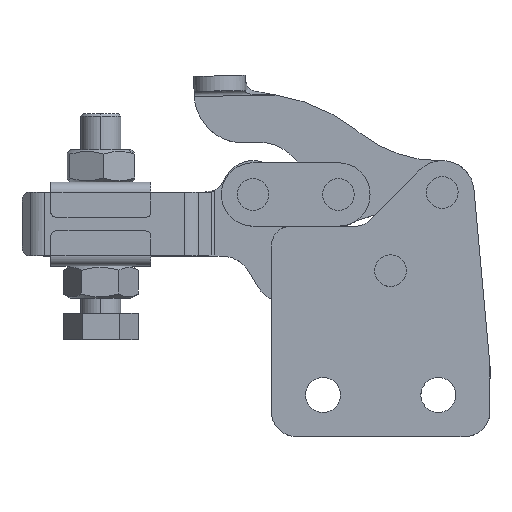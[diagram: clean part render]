
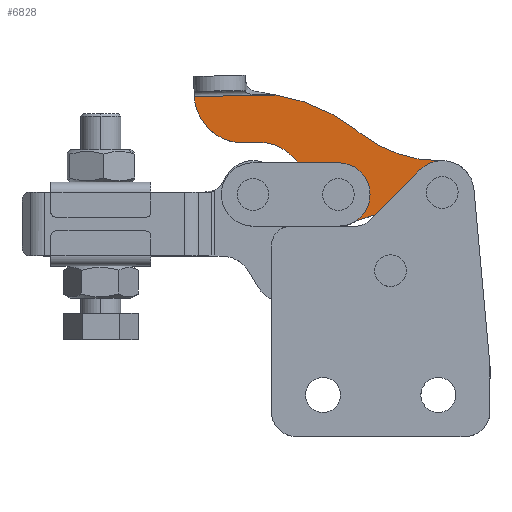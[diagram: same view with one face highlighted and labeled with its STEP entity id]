
A CAD part, top view. The second image highlights one B-rep face of the part: STEP entity #6828.
In plain terms, the highlighted planar face has unit normal (0, 0, 1).
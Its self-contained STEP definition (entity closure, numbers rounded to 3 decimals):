
#800 = EDGE_CURVE ( 'NONE', #4861, #4826, #1166, .T. ) ;
#805 = EDGE_CURVE ( 'NONE', #4835, #3981, #1239, .T. ) ;
#820 = EDGE_CURVE ( 'NONE', #3981, #4835, #1110, .T. ) ;
#824 = EDGE_CURVE ( 'NONE', #3980, #4831, #1260, .T. ) ;
#825 = EDGE_CURVE ( 'NONE', #4811, #4861, #2743, .T. ) ;
#830 = EDGE_CURVE ( 'NONE', #4826, #3999, #1264, .T. ) ;
#831 = EDGE_CURVE ( 'NONE', #3999, #4877, #1403, .T. ) ;
#834 = EDGE_CURVE ( 'NONE', #4877, #4873, #1101, .T. ) ;
#838 = EDGE_CURVE ( 'NONE', #4828, #1501, #1416, .T. ) ;
#839 = EDGE_CURVE ( 'NONE', #1501, #3984, #1414, .T. ) ;
#842 = EDGE_CURVE ( 'NONE', #3984, #1518, #5752, .T. ) ;
#849 = EDGE_CURVE ( 'NONE', #1518, #4878, #1406, .T. ) ;
#850 = EDGE_CURVE ( 'NONE', #4878, #4875, #5763, .T. ) ;
#851 = EDGE_CURVE ( 'NONE', #4875, #4811, #1285, .T. ) ;
#1083 = AXIS2_PLACEMENT_3D ( 'NONE', #5739, #5740, #5741 ) ;
#1095 = AXIS2_PLACEMENT_3D ( 'NONE', #2688, #2689, #2690 ) ;
#1101 = CIRCLE ( 'NONE', #1234, 17.881 ) ;
#1102 = AXIS2_PLACEMENT_3D ( 'NONE', #5777, #5778, #5779 ) ;
#1110 = CIRCLE ( 'NONE', #1213, 2.45 ) ;
#1131 = VECTOR ( 'NONE', #2747, 1000. ) ;
#1142 = AXIS2_PLACEMENT_3D ( 'NONE', #2671, #2672, #2673 ) ;
#1158 = AXIS2_PLACEMENT_3D ( 'NONE', #5783, #5784, #5785 ) ;
#1166 = CIRCLE ( 'NONE', #1142, 9.549 ) ;
#1171 = AXIS2_PLACEMENT_3D ( 'NONE', #5719, #5720, #5721 ) ;
#1213 = AXIS2_PLACEMENT_3D ( 'NONE', #2730, #2731, #2732 ) ;
#1223 = AXIS2_PLACEMENT_3D ( 'NONE', #5743, #5744, #5745 ) ;
#1234 = AXIS2_PLACEMENT_3D ( 'NONE', #5728, #5729, #5730 ) ;
#1239 = CIRCLE ( 'NONE', #1095, 2.45 ) ;
#1250 = AXIS2_PLACEMENT_3D ( 'NONE', #5716, #5717, #5718 ) ;
#1260 = CIRCLE ( 'NONE', #1413, 2.45 ) ;
#1262 = VECTOR ( 'NONE', #5754, 1000. ) ;
#1264 = CIRCLE ( 'NONE', #1250, 9.549 ) ;
#1285 = CIRCLE ( 'NONE', #1158, 9.877 ) ;
#1299 = VECTOR ( 'NONE', #5780, 1000. ) ;
#1403 = CIRCLE ( 'NONE', #1171, 6.411 ) ;
#1406 = CIRCLE ( 'NONE', #1102, 35.013 ) ;
#1413 = AXIS2_PLACEMENT_3D ( 'NONE', #2744, #2745, #2746 ) ;
#1414 = CIRCLE ( 'NONE', #1223, 25.464 ) ;
#1416 = CIRCLE ( 'NONE', #1083, 6.366 ) ;
#1501 = VERTEX_POINT ( 'NONE', #3386 ) ;
#1518 = VERTEX_POINT ( 'NONE', #3403 ) ;
#2325 = EDGE_CURVE ( 'NONE', #4873, #4828, #4038, .T. ) ;
#2671 = CARTESIAN_POINT ( 'NONE',  ( -36.719, 1.194, 0. ) ) ;
#2672 = DIRECTION ( 'NONE',  ( 0., 0., -1. ) ) ;
#2673 = DIRECTION ( 'NONE',  ( 1., 0., 0. ) ) ;
#2688 = CARTESIAN_POINT ( 'NONE',  ( -20.804, 0., 0. ) ) ;
#2689 = DIRECTION ( 'NONE',  ( 0., 0., 1. ) ) ;
#2690 = DIRECTION ( 'NONE',  ( 1., 0., 0. ) ) ;
#2730 = CARTESIAN_POINT ( 'NONE',  ( -20.804, 0., 0. ) ) ;
#2731 = DIRECTION ( 'NONE',  ( 0., 0., 1. ) ) ;
#2732 = DIRECTION ( 'NONE',  ( 1., 0., 0. ) ) ;
#2738 = CARTESIAN_POINT ( 'NONE',  ( -40.612, 10.743, 0. ) ) ;
#2743 = LINE ( 'NONE', #2738, #1131 ) ;
#2744 = CARTESIAN_POINT ( 'NONE',  ( 0., 0., 0. ) ) ;
#2745 = DIRECTION ( 'NONE',  ( 0., 0., 1. ) ) ;
#2746 = DIRECTION ( 'NONE',  ( 1., 0., 0. ) ) ;
#2747 = DIRECTION ( 'NONE',  ( 1., 0., 0. ) ) ;
#2781 = EDGE_LOOP ( 'NONE', ( #7722, #8103 ) ) ;
#2789 = EDGE_LOOP ( 'NONE', ( #8091, #8057, #8097, #8102, #7740, #7755, #7717, #7758, #8105, #7751, #7739, #8045 ) ) ;
#2792 = EDGE_LOOP ( 'NONE', ( #8111, #7748 ) ) ;
#3386 = CARTESIAN_POINT ( 'NONE',  ( 0., 6.366, 0. ) ) ;
#3403 = CARTESIAN_POINT ( 'NONE',  ( -17.1, 12.91, 0. ) ) ;
#3441 = CARTESIAN_POINT ( 'NONE',  ( 0., 0., 0. ) ) ;
#3442 = DIRECTION ( 'NONE',  ( 0., 0., 1. ) ) ;
#3443 = DIRECTION ( 'NONE',  ( 1., 0., 0. ) ) ;
#3612 = EDGE_CURVE ( 'NONE', #4831, #3980, #3901, .T. ) ;
#3681 = AXIS2_PLACEMENT_3D ( 'NONE', #5685, #5691, #5692 ) ;
#3901 = CIRCLE ( 'NONE', #4026, 2.45 ) ;
#3906 = AXIS2_PLACEMENT_3D ( 'NONE', #3441, #3442, #3443 ) ;
#3980 = VERTEX_POINT ( 'NONE', #6526 ) ;
#3981 = VERTEX_POINT ( 'NONE', #6527 ) ;
#3984 = VERTEX_POINT ( 'NONE', #6529 ) ;
#3999 = VERTEX_POINT ( 'NONE', #6543 ) ;
#4026 = AXIS2_PLACEMENT_3D ( 'NONE', #6485, #6486, #6487 ) ;
#4038 = CIRCLE ( 'NONE', #3906, 6.366 ) ;
#4811 = VERTEX_POINT ( 'NONE', #6588 ) ;
#4826 = VERTEX_POINT ( 'NONE', #6596 ) ;
#4828 = VERTEX_POINT ( 'NONE', #6597 ) ;
#4831 = VERTEX_POINT ( 'NONE', #6599 ) ;
#4835 = VERTEX_POINT ( 'NONE', #6601 ) ;
#4861 = VERTEX_POINT ( 'NONE', #6615 ) ;
#4873 = VERTEX_POINT ( 'NONE', #5424 ) ;
#4875 = VERTEX_POINT ( 'NONE', #5425 ) ;
#4877 = VERTEX_POINT ( 'NONE', #5426 ) ;
#4878 = VERTEX_POINT ( 'NONE', #5427 ) ;
#5424 = CARTESIAN_POINT ( 'NONE',  ( -2.229, -5.963, 0. ) ) ;
#5425 = CARTESIAN_POINT ( 'NONE',  ( -49.276, 20.15, 0. ) ) ;
#5426 = CARTESIAN_POINT ( 'NONE',  ( -17.262, -5.344, 0. ) ) ;
#5427 = CARTESIAN_POINT ( 'NONE',  ( -32.986, 20.15, 0. ) ) ;
#5678 = FACE_OUTER_BOUND ( 'NONE', #2789, .T. ) ;
#5683 = FACE_BOUND ( 'NONE', #2781, .T. ) ;
#5684 = FACE_BOUND ( 'NONE', #2792, .T. ) ;
#5685 = CARTESIAN_POINT ( 'NONE',  ( -39.407, 20.546, 0. ) ) ;
#5690 = PLANE ( 'NONE',  #3681 ) ;
#5691 = DIRECTION ( 'NONE',  ( 0., 0., 1. ) ) ;
#5692 = DIRECTION ( 'NONE',  ( 1., 0., 0. ) ) ;
#5716 = CARTESIAN_POINT ( 'NONE',  ( -36.719, 1.194, 0. ) ) ;
#5717 = DIRECTION ( 'NONE',  ( 0., 0., -1. ) ) ;
#5718 = DIRECTION ( 'NONE',  ( 1., 0., 0. ) ) ;
#5719 = CARTESIAN_POINT ( 'NONE',  ( -20.804, 0., 0. ) ) ;
#5720 = DIRECTION ( 'NONE',  ( 0., 0., 1. ) ) ;
#5721 = DIRECTION ( 'NONE',  ( 1., 0., 0. ) ) ;
#5728 = CARTESIAN_POINT ( 'NONE',  ( -10.413, -21.861, 0. ) ) ;
#5729 = DIRECTION ( 'NONE',  ( 0., 0., -1. ) ) ;
#5730 = DIRECTION ( 'NONE',  ( 1., 0., 0. ) ) ;
#5739 = CARTESIAN_POINT ( 'NONE',  ( 0., 0., 0. ) ) ;
#5740 = DIRECTION ( 'NONE',  ( 0., 0., 1. ) ) ;
#5741 = DIRECTION ( 'NONE',  ( 1., 0., 0. ) ) ;
#5743 = CARTESIAN_POINT ( 'NONE',  ( 0., 31.83, 0. ) ) ;
#5744 = DIRECTION ( 'NONE',  ( 0., 0., -1. ) ) ;
#5745 = DIRECTION ( 'NONE',  ( 1., 0., 0. ) ) ;
#5752 = LINE ( 'NONE', #5753, #1262 ) ;
#5753 = CARTESIAN_POINT ( 'NONE',  ( -17.1, 12.91, 0. ) ) ;
#5754 = DIRECTION ( 'NONE',  ( -0.778, 0.629, 0. ) ) ;
#5763 = LINE ( 'NONE', #5764, #1299 ) ;
#5764 = CARTESIAN_POINT ( 'NONE',  ( -39.407, 20.15, 0. ) ) ;
#5777 = CARTESIAN_POINT ( 'NONE',  ( -39.107, -14.324, 0. ) ) ;
#5778 = DIRECTION ( 'NONE',  ( 0., 0., 1. ) ) ;
#5779 = DIRECTION ( 'NONE',  ( 1., 0., 0. ) ) ;
#5780 = DIRECTION ( 'NONE',  ( -1., 0., 0. ) ) ;
#5783 = CARTESIAN_POINT ( 'NONE',  ( -39.407, 20.546, 0. ) ) ;
#5784 = DIRECTION ( 'NONE',  ( 0., 0., 1. ) ) ;
#5785 = DIRECTION ( 'NONE',  ( 1., 0., 0. ) ) ;
#6485 = CARTESIAN_POINT ( 'NONE',  ( 0., 0., 0. ) ) ;
#6486 = DIRECTION ( 'NONE',  ( 0., 0., 1. ) ) ;
#6487 = DIRECTION ( 'NONE',  ( 1., 0., 0. ) ) ;
#6526 = CARTESIAN_POINT ( 'NONE',  ( 2.45, 0., 0. ) ) ;
#6527 = CARTESIAN_POINT ( 'NONE',  ( -18.354, 0., 0. ) ) ;
#6529 = CARTESIAN_POINT ( 'NONE',  ( -16.005, 12.024, 0. ) ) ;
#6543 = CARTESIAN_POINT ( 'NONE',  ( -27.192, 0.554, 0. ) ) ;
#6588 = CARTESIAN_POINT ( 'NONE',  ( -40.612, 10.743, 0. ) ) ;
#6596 = CARTESIAN_POINT ( 'NONE',  ( -27.17, 1.194, 0. ) ) ;
#6597 = CARTESIAN_POINT ( 'NONE',  ( 6.366, 0., 0. ) ) ;
#6599 = CARTESIAN_POINT ( 'NONE',  ( -2.45, 0., 0. ) ) ;
#6601 = CARTESIAN_POINT ( 'NONE',  ( -23.254, 0., 0. ) ) ;
#6615 = CARTESIAN_POINT ( 'NONE',  ( -36.719, 10.743, 0. ) ) ;
#6828 = ADVANCED_FACE ( 'NONE', ( #5683, #5684, #5678 ), #5690, .T. ) ;
#7717 = ORIENTED_EDGE ( 'NONE', *, *, #831, .T. ) ;
#7722 = ORIENTED_EDGE ( 'NONE', *, *, #824, .F. ) ;
#7739 = ORIENTED_EDGE ( 'NONE', *, *, #839, .T. ) ;
#7740 = ORIENTED_EDGE ( 'NONE', *, *, #800, .T. ) ;
#7748 = ORIENTED_EDGE ( 'NONE', *, *, #805, .F. ) ;
#7751 = ORIENTED_EDGE ( 'NONE', *, *, #838, .T. ) ;
#7755 = ORIENTED_EDGE ( 'NONE', *, *, #830, .T. ) ;
#7758 = ORIENTED_EDGE ( 'NONE', *, *, #834, .T. ) ;
#8045 = ORIENTED_EDGE ( 'NONE', *, *, #842, .T. ) ;
#8057 = ORIENTED_EDGE ( 'NONE', *, *, #850, .T. ) ;
#8091 = ORIENTED_EDGE ( 'NONE', *, *, #849, .T. ) ;
#8097 = ORIENTED_EDGE ( 'NONE', *, *, #851, .T. ) ;
#8102 = ORIENTED_EDGE ( 'NONE', *, *, #825, .T. ) ;
#8103 = ORIENTED_EDGE ( 'NONE', *, *, #3612, .F. ) ;
#8105 = ORIENTED_EDGE ( 'NONE', *, *, #2325, .T. ) ;
#8111 = ORIENTED_EDGE ( 'NONE', *, *, #820, .F. ) ;
